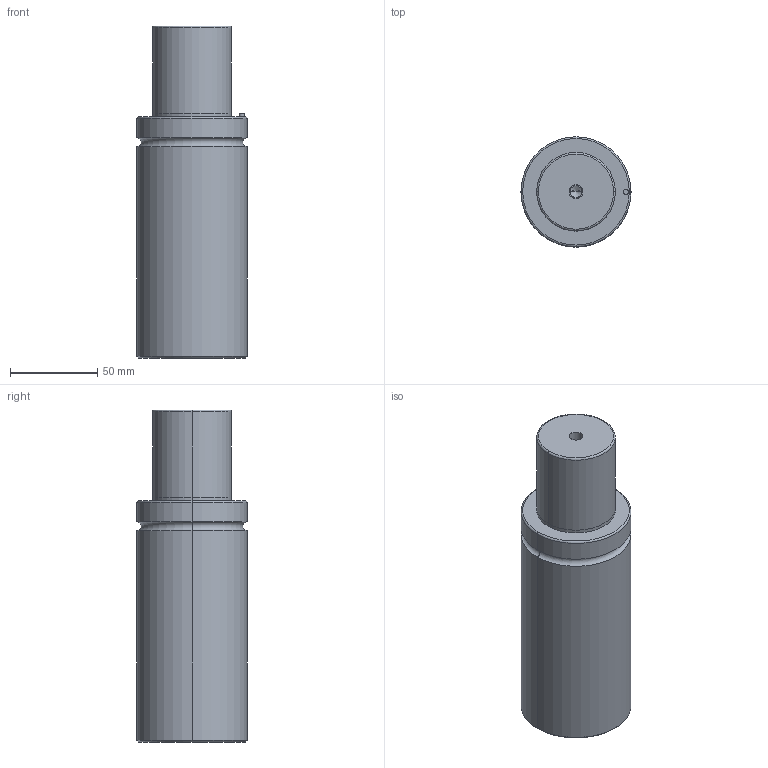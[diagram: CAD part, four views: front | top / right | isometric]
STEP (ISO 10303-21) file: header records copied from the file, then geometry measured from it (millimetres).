
FILE_DESCRIPTION(/* description */ (''),/* implementation_level */ '2;1');
FILE_NAME(/* name */ '3d_gsm63-50_03947_r00.stp',/* time_stamp */ '2011-01-10T14:15:14+09:00',/* author */ ('MISUMI'),/* organization */ (''),/* preprocessor_version */ 'ST-DEVELOPER v11',/* originating_system */ 'UGS - NX 5.0',/* authorisation */ '');
FILE_SCHEMA (('CONFIG_CONTROL_DESIGN'));
Length unit declared in the file: millimetre
Products named in the file (1): 3d_gsm63-50_03947_r00
Bounding box: 63 x 63 x 190 mm (x, y, z)
Volume: 507976.4 mm3; surface area: 42583.3 mm2
Topology: 1 solids, 1 shells, 50 faces, 106 edges, 60 vertices
Faces by surface type: cylinder 26, cone 10, plane 8, torus 6
Entity records: 1382 total; most frequent: DIRECTION 262, CARTESIAN_POINT 209, ORIENTED_EDGE 196, AXIS2_PLACEMENT_3D 113, EDGE_CURVE 98, CIRCLE 62, EDGE_LOOP 60, VERTEX_POINT 60
